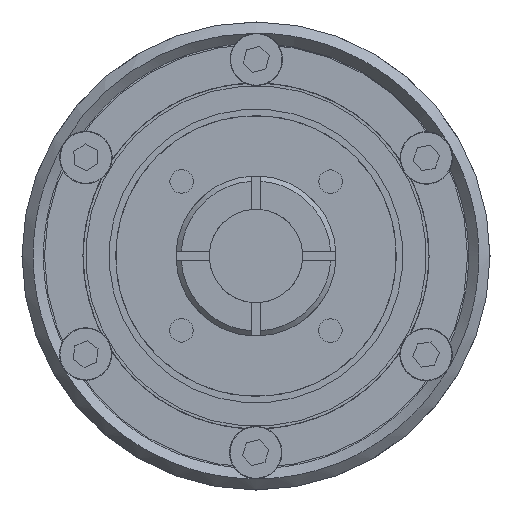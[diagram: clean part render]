
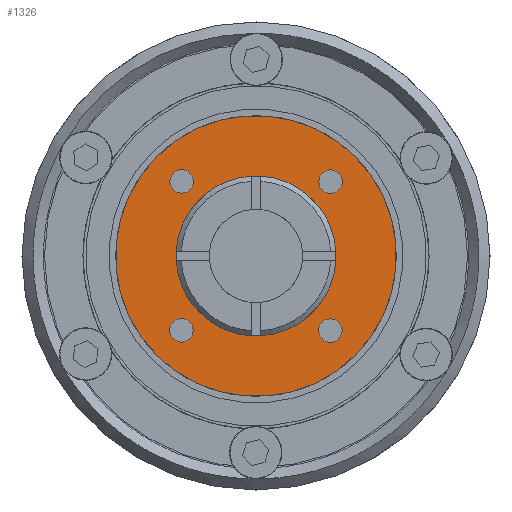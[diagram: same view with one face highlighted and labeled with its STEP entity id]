
A CAD part, left-side view. The second image highlights one B-rep face of the part: STEP entity #1326.
In plain terms, the highlighted planar face has unit normal (-1, 0, 0) as drawn and (0, -1, 0) by its records, which use the part's own axes.
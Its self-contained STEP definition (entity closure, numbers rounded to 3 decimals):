
#1326 = ADVANCED_FACE( '', ( #2424, #2425, #2426, #2427, #2428, #2429 ), #2430, .F. );
#2424 = FACE_OUTER_BOUND( '', #3353, .T. );
#2425 = FACE_BOUND( '', #3354, .T. );
#2426 = FACE_BOUND( '', #3355, .T. );
#2427 = FACE_BOUND( '', #3356, .T. );
#2428 = FACE_BOUND( '', #3357, .T. );
#2429 = FACE_BOUND( '', #3358, .T. );
#2430 = PLANE( '', #3359 );
#3353 = EDGE_LOOP( '', ( #5065 ) );
#3354 = EDGE_LOOP( '', ( #5066 ) );
#3355 = EDGE_LOOP( '', ( #5067 ) );
#3356 = EDGE_LOOP( '', ( #5068 ) );
#3357 = EDGE_LOOP( '', ( #5069 ) );
#3358 = EDGE_LOOP( '', ( #5070 ) );
#3359 = AXIS2_PLACEMENT_3D( '', #5071, #5072, #5073 );
#5065 = ORIENTED_EDGE( '', *, *, #6449, .T. );
#5066 = ORIENTED_EDGE( '', *, *, #6455, .F. );
#5067 = ORIENTED_EDGE( '', *, *, #6456, .F. );
#5068 = ORIENTED_EDGE( '', *, *, #6457, .F. );
#5069 = ORIENTED_EDGE( '', *, *, #6458, .F. );
#5070 = ORIENTED_EDGE( '', *, *, #6459, .F. );
#5071 = CARTESIAN_POINT( '', ( 0., 0., 15. ) );
#5072 = DIRECTION( '', ( 0., 1., 0. ) );
#5073 = DIRECTION( '', ( 1., 0., 0. ) );
#6449 = EDGE_CURVE( '', #7412, #7412, #7413, .T. );
#6455 = EDGE_CURVE( '', #7424, #7424, #7425, .T. );
#6456 = EDGE_CURVE( '', #7426, #7426, #7427, .T. );
#6457 = EDGE_CURVE( '', #7428, #7428, #7429, .T. );
#6458 = EDGE_CURVE( '', #7430, #7430, #7431, .T. );
#6459 = EDGE_CURVE( '', #7432, #7432, #7433, .T. );
#7412 = VERTEX_POINT( '', #8580 );
#7413 = CIRCLE( '', #8581, 15. );
#7424 = VERTEX_POINT( '', #8592 );
#7425 = CIRCLE( '', #8593, 1.25 );
#7426 = VERTEX_POINT( '', #8594 );
#7427 = CIRCLE( '', #8595, 1.25 );
#7428 = VERTEX_POINT( '', #8596 );
#7429 = CIRCLE( '', #8597, 1.25 );
#7430 = VERTEX_POINT( '', #8598 );
#7431 = CIRCLE( '', #8599, 1.25 );
#7432 = VERTEX_POINT( '', #8600 );
#7433 = CIRCLE( '', #8601, 8.5 );
#8580 = CARTESIAN_POINT( '', ( 0., 0., -15. ) );
#8581 = AXIS2_PLACEMENT_3D( '', #9632, #9633, #9634 );
#8592 = CARTESIAN_POINT( '', ( -11.25, 0., 1.25 ) );
#8593 = AXIS2_PLACEMENT_3D( '', #9650, #9651, #9652 );
#8594 = CARTESIAN_POINT( '', ( -1.25, 0., -11.25 ) );
#8595 = AXIS2_PLACEMENT_3D( '', #9653, #9654, #9655 );
#8596 = CARTESIAN_POINT( '', ( 11.25, 0., -1.25 ) );
#8597 = AXIS2_PLACEMENT_3D( '', #9656, #9657, #9658 );
#8598 = CARTESIAN_POINT( '', ( 1.25, 0., 11.25 ) );
#8599 = AXIS2_PLACEMENT_3D( '', #9659, #9660, #9661 );
#8600 = CARTESIAN_POINT( '', ( 0., 0., -8.5 ) );
#8601 = AXIS2_PLACEMENT_3D( '', #9662, #9663, #9664 );
#9632 = CARTESIAN_POINT( '', ( 0., 0., 0. ) );
#9633 = DIRECTION( '', ( 0., -1., 0. ) );
#9634 = DIRECTION( '', ( 0., 0., -1. ) );
#9650 = CARTESIAN_POINT( '', ( -11.25, 0., 0. ) );
#9651 = DIRECTION( '', ( 0., -1., 0. ) );
#9652 = DIRECTION( '', ( 0., 0., 1. ) );
#9653 = CARTESIAN_POINT( '', ( 0., 0., -11.25 ) );
#9654 = DIRECTION( '', ( 0., -1., 0. ) );
#9655 = DIRECTION( '', ( -1., 0., 0. ) );
#9656 = CARTESIAN_POINT( '', ( 11.25, 0., 0. ) );
#9657 = DIRECTION( '', ( 0., -1., 0. ) );
#9658 = DIRECTION( '', ( 0., 0., -1. ) );
#9659 = CARTESIAN_POINT( '', ( 0., 0., 11.25 ) );
#9660 = DIRECTION( '', ( 0., -1., 0. ) );
#9661 = DIRECTION( '', ( 1., 0., 0. ) );
#9662 = CARTESIAN_POINT( '', ( 0., 0., 0. ) );
#9663 = DIRECTION( '', ( 0., -1., 0. ) );
#9664 = DIRECTION( '', ( 0., 0., -1. ) );
